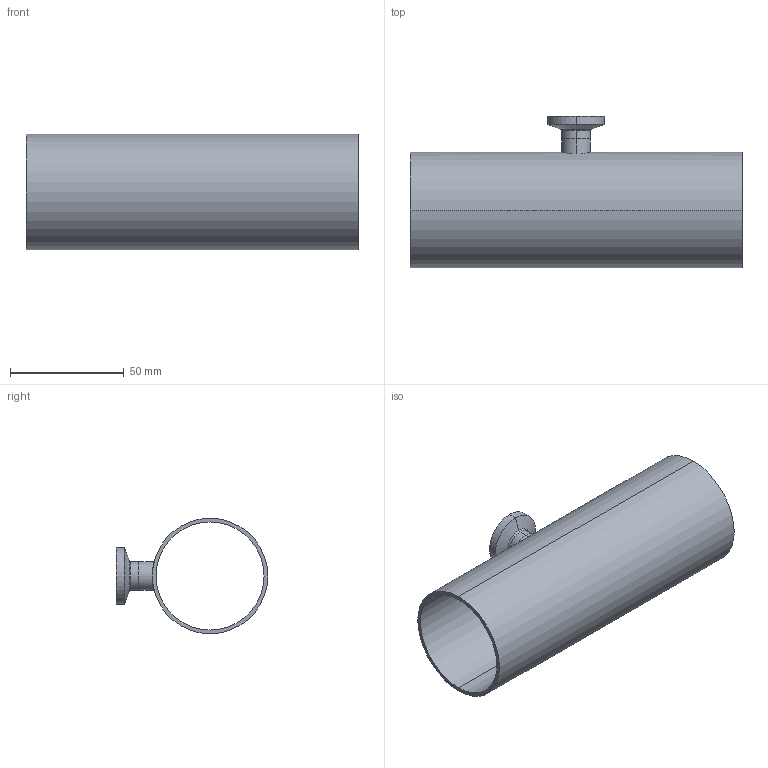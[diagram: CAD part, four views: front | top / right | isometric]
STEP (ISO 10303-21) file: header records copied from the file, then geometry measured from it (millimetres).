
FILE_DESCRIPTION (( 'STEP AP214' ), '1' );
FILE_NAME ('TE7RWWCS6L2.0x.5-...STEP', '2016-05-23T11:57:28', ( 'eran' ), ( '' ), 'SwSTEP 2.0', 'SolidWorks 2016', '' );
FILE_SCHEMA (( 'AUTOMOTIVE_DESIGN' ));
Length unit declared in the file: millimetre
Products named in the file (1): TE7RWWCS6L2.0x.5-..
Bounding box: 146 x 66.7 x 50.8 mm (x, y, z)
Volume: 39327.5 mm3; surface area: 47662.5 mm2
Topology: 2 solids, 2 shells, 34 faces, 72 edges, 44 vertices
Faces by surface type: cylinder 16, bspline 8, plane 6, cone 4
Entity records: 1211 total; most frequent: CARTESIAN_POINT 435, DIRECTION 162, ORIENTED_EDGE 144, EDGE_CURVE 72, AXIS2_PLACEMENT_3D 71, CIRCLE 44, VERTEX_POINT 44, EDGE_LOOP 42
